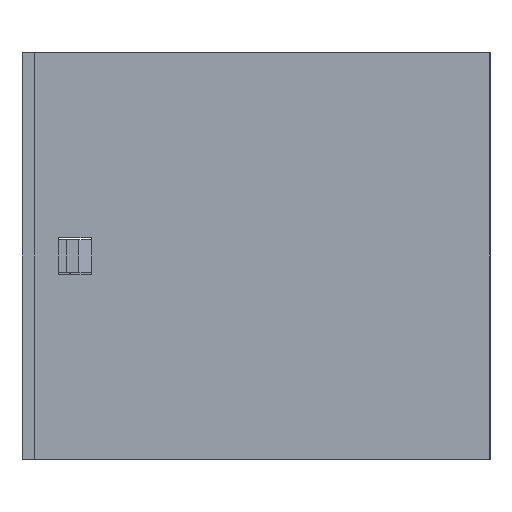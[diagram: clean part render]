
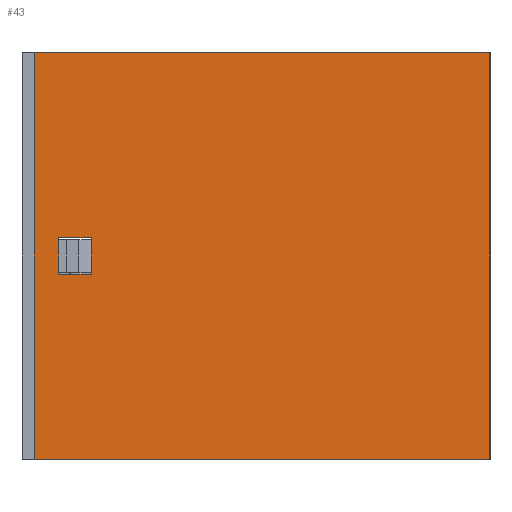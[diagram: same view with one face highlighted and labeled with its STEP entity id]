
A CAD part, left-side view. The second image highlights one B-rep face of the part: STEP entity #43.
In plain terms, the highlighted planar face has unit normal (-1, 0, 0).
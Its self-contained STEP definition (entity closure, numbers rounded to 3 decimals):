
#43 = ADVANCED_FACE('',(#44,#163),#58,.F.);
#44 = FACE_BOUND('',#45,.F.);
#45 = EDGE_LOOP('',(#46,#81,#109,#137));
#46 = ORIENTED_EDGE('',*,*,#47,.F.);
#47 = EDGE_CURVE('',#48,#50,#52,.T.);
#48 = VERTEX_POINT('',#49);
#49 = CARTESIAN_POINT('',(0.,0.,0.));
#50 = VERTEX_POINT('',#51);
#51 = CARTESIAN_POINT('',(0.,0.,100.));
#52 = SURFACE_CURVE('',#53,(#57,#69),.PCURVE_S1.);
#53 = LINE('',#54,#55);
#54 = CARTESIAN_POINT('',(0.,0.,0.));
#55 = VECTOR('',#56,1.);
#56 = DIRECTION('',(0.,0.,1.));
#57 = PCURVE('',#58,#63);
#58 = PLANE('',#59);
#59 = AXIS2_PLACEMENT_3D('',#60,#61,#62);
#60 = CARTESIAN_POINT('',(0.,0.,0.));
#61 = DIRECTION('',(1.,0.,0.));
#62 = DIRECTION('',(0.,0.,1.));
#63 = DEFINITIONAL_REPRESENTATION('',(#64),#68);
#64 = LINE('',#65,#66);
#65 = CARTESIAN_POINT('',(0.,0.));
#66 = VECTOR('',#67,1.);
#67 = DIRECTION('',(1.,0.));
#68 = ( GEOMETRIC_REPRESENTATION_CONTEXT(2) 
PARAMETRIC_REPRESENTATION_CONTEXT() REPRESENTATION_CONTEXT('2D SPACE',''
  ) );
#69 = PCURVE('',#70,#75);
#70 = PLANE('',#71);
#71 = AXIS2_PLACEMENT_3D('',#72,#73,#74);
#72 = CARTESIAN_POINT('',(0.,0.,0.));
#73 = DIRECTION('',(0.,1.,0.));
#74 = DIRECTION('',(0.,0.,1.));
#75 = DEFINITIONAL_REPRESENTATION('',(#76),#80);
#76 = LINE('',#77,#78);
#77 = CARTESIAN_POINT('',(0.,0.));
#78 = VECTOR('',#79,1.);
#79 = DIRECTION('',(1.,0.));
#80 = ( GEOMETRIC_REPRESENTATION_CONTEXT(2) 
PARAMETRIC_REPRESENTATION_CONTEXT() REPRESENTATION_CONTEXT('2D SPACE',''
  ) );
#81 = ORIENTED_EDGE('',*,*,#82,.T.);
#82 = EDGE_CURVE('',#48,#83,#85,.T.);
#83 = VERTEX_POINT('',#84);
#84 = CARTESIAN_POINT('',(0.,112.,0.));
#85 = SURFACE_CURVE('',#86,(#90,#97),.PCURVE_S1.);
#86 = LINE('',#87,#88);
#87 = CARTESIAN_POINT('',(0.,0.,0.));
#88 = VECTOR('',#89,1.);
#89 = DIRECTION('',(0.,1.,0.));
#90 = PCURVE('',#58,#91);
#91 = DEFINITIONAL_REPRESENTATION('',(#92),#96);
#92 = LINE('',#93,#94);
#93 = CARTESIAN_POINT('',(0.,0.));
#94 = VECTOR('',#95,1.);
#95 = DIRECTION('',(0.,-1.));
#96 = ( GEOMETRIC_REPRESENTATION_CONTEXT(2) 
PARAMETRIC_REPRESENTATION_CONTEXT() REPRESENTATION_CONTEXT('2D SPACE',''
  ) );
#97 = PCURVE('',#98,#103);
#98 = PLANE('',#99);
#99 = AXIS2_PLACEMENT_3D('',#100,#101,#102);
#100 = CARTESIAN_POINT('',(0.,0.,0.));
#101 = DIRECTION('',(0.,0.,1.));
#102 = DIRECTION('',(1.,0.,0.));
#103 = DEFINITIONAL_REPRESENTATION('',(#104),#108);
#104 = LINE('',#105,#106);
#105 = CARTESIAN_POINT('',(0.,0.));
#106 = VECTOR('',#107,1.);
#107 = DIRECTION('',(0.,1.));
#108 = ( GEOMETRIC_REPRESENTATION_CONTEXT(2) 
PARAMETRIC_REPRESENTATION_CONTEXT() REPRESENTATION_CONTEXT('2D SPACE',''
  ) );
#109 = ORIENTED_EDGE('',*,*,#110,.T.);
#110 = EDGE_CURVE('',#83,#111,#113,.T.);
#111 = VERTEX_POINT('',#112);
#112 = CARTESIAN_POINT('',(0.,112.,100.));
#113 = SURFACE_CURVE('',#114,(#118,#125),.PCURVE_S1.);
#114 = LINE('',#115,#116);
#115 = CARTESIAN_POINT('',(0.,112.,0.));
#116 = VECTOR('',#117,1.);
#117 = DIRECTION('',(0.,0.,1.));
#118 = PCURVE('',#58,#119);
#119 = DEFINITIONAL_REPRESENTATION('',(#120),#124);
#120 = LINE('',#121,#122);
#121 = CARTESIAN_POINT('',(0.,-112.));
#122 = VECTOR('',#123,1.);
#123 = DIRECTION('',(1.,0.));
#124 = ( GEOMETRIC_REPRESENTATION_CONTEXT(2) 
PARAMETRIC_REPRESENTATION_CONTEXT() REPRESENTATION_CONTEXT('2D SPACE',''
  ) );
#125 = PCURVE('',#126,#131);
#126 = PLANE('',#127);
#127 = AXIS2_PLACEMENT_3D('',#128,#129,#130);
#128 = CARTESIAN_POINT('',(0.,112.,0.));
#129 = DIRECTION('',(0.,1.,0.));
#130 = DIRECTION('',(0.,0.,1.));
#131 = DEFINITIONAL_REPRESENTATION('',(#132),#136);
#132 = LINE('',#133,#134);
#133 = CARTESIAN_POINT('',(0.,0.));
#134 = VECTOR('',#135,1.);
#135 = DIRECTION('',(1.,0.));
#136 = ( GEOMETRIC_REPRESENTATION_CONTEXT(2) 
PARAMETRIC_REPRESENTATION_CONTEXT() REPRESENTATION_CONTEXT('2D SPACE',''
  ) );
#137 = ORIENTED_EDGE('',*,*,#138,.F.);
#138 = EDGE_CURVE('',#50,#111,#139,.T.);
#139 = SURFACE_CURVE('',#140,(#144,#151),.PCURVE_S1.);
#140 = LINE('',#141,#142);
#141 = CARTESIAN_POINT('',(0.,0.,100.));
#142 = VECTOR('',#143,1.);
#143 = DIRECTION('',(0.,1.,0.));
#144 = PCURVE('',#58,#145);
#145 = DEFINITIONAL_REPRESENTATION('',(#146),#150);
#146 = LINE('',#147,#148);
#147 = CARTESIAN_POINT('',(100.,0.));
#148 = VECTOR('',#149,1.);
#149 = DIRECTION('',(0.,-1.));
#150 = ( GEOMETRIC_REPRESENTATION_CONTEXT(2) 
PARAMETRIC_REPRESENTATION_CONTEXT() REPRESENTATION_CONTEXT('2D SPACE',''
  ) );
#151 = PCURVE('',#152,#157);
#152 = PLANE('',#153);
#153 = AXIS2_PLACEMENT_3D('',#154,#155,#156);
#154 = CARTESIAN_POINT('',(0.,0.,100.));
#155 = DIRECTION('',(0.,0.,1.));
#156 = DIRECTION('',(1.,0.,0.));
#157 = DEFINITIONAL_REPRESENTATION('',(#158),#162);
#158 = LINE('',#159,#160);
#159 = CARTESIAN_POINT('',(0.,0.));
#160 = VECTOR('',#161,1.);
#161 = DIRECTION('',(0.,1.));
#162 = ( GEOMETRIC_REPRESENTATION_CONTEXT(2) 
PARAMETRIC_REPRESENTATION_CONTEXT() REPRESENTATION_CONTEXT('2D SPACE',''
  ) );
#163 = FACE_BOUND('',#164,.F.);
#164 = EDGE_LOOP('',(#165,#193,#219,#245));
#165 = ORIENTED_EDGE('',*,*,#166,.T.);
#166 = EDGE_CURVE('',#167,#169,#171,.T.);
#167 = VERTEX_POINT('',#168);
#168 = CARTESIAN_POINT('',(0.,106.,45.5));
#169 = VERTEX_POINT('',#170);
#170 = CARTESIAN_POINT('',(0.,98.,45.5));
#171 = SURFACE_CURVE('',#172,(#176,#182),.PCURVE_S1.);
#172 = LINE('',#173,#174);
#173 = CARTESIAN_POINT('',(0.,49.,45.5));
#174 = VECTOR('',#175,1.);
#175 = DIRECTION('',(0.,-1.,0.));
#176 = PCURVE('',#58,#177);
#177 = DEFINITIONAL_REPRESENTATION('',(#178),#181);
#178 = B_SPLINE_CURVE_WITH_KNOTS('',1,(#179,#180),.UNSPECIFIED.,.F.,.F.,
  (2,2),(-57.,-49.),.PIECEWISE_BEZIER_KNOTS.);
#179 = CARTESIAN_POINT('',(45.5,-106.));
#180 = CARTESIAN_POINT('',(45.5,-98.));
#181 = ( GEOMETRIC_REPRESENTATION_CONTEXT(2) 
PARAMETRIC_REPRESENTATION_CONTEXT() REPRESENTATION_CONTEXT('2D SPACE',''
  ) );
#182 = PCURVE('',#183,#188);
#183 = PLANE('',#184);
#184 = AXIS2_PLACEMENT_3D('',#185,#186,#187);
#185 = CARTESIAN_POINT('',(-0.1,98.,45.5));
#186 = DIRECTION('',(0.,0.,1.));
#187 = DIRECTION('',(1.,0.,0.));
#188 = DEFINITIONAL_REPRESENTATION('',(#189),#192);
#189 = B_SPLINE_CURVE_WITH_KNOTS('',1,(#190,#191),.UNSPECIFIED.,.F.,.F.,
  (2,2),(-57.,-49.),.PIECEWISE_BEZIER_KNOTS.);
#190 = CARTESIAN_POINT('',(0.1,8.));
#191 = CARTESIAN_POINT('',(0.1,0.));
#192 = ( GEOMETRIC_REPRESENTATION_CONTEXT(2) 
PARAMETRIC_REPRESENTATION_CONTEXT() REPRESENTATION_CONTEXT('2D SPACE',''
  ) );
#193 = ORIENTED_EDGE('',*,*,#194,.T.);
#194 = EDGE_CURVE('',#169,#195,#197,.T.);
#195 = VERTEX_POINT('',#196);
#196 = CARTESIAN_POINT('',(0.,98.,54.5));
#197 = SURFACE_CURVE('',#198,(#202,#208),.PCURVE_S1.);
#198 = LINE('',#199,#200);
#199 = CARTESIAN_POINT('',(0.,98.,22.75));
#200 = VECTOR('',#201,1.);
#201 = DIRECTION('',(0.,0.,1.));
#202 = PCURVE('',#58,#203);
#203 = DEFINITIONAL_REPRESENTATION('',(#204),#207);
#204 = B_SPLINE_CURVE_WITH_KNOTS('',1,(#205,#206),.UNSPECIFIED.,.F.,.F.,
  (2,2),(22.75,31.75),.PIECEWISE_BEZIER_KNOTS.);
#205 = CARTESIAN_POINT('',(45.5,-98.));
#206 = CARTESIAN_POINT('',(54.5,-98.));
#207 = ( GEOMETRIC_REPRESENTATION_CONTEXT(2) 
PARAMETRIC_REPRESENTATION_CONTEXT() REPRESENTATION_CONTEXT('2D SPACE',''
  ) );
#208 = PCURVE('',#209,#214);
#209 = PLANE('',#210);
#210 = AXIS2_PLACEMENT_3D('',#211,#212,#213);
#211 = CARTESIAN_POINT('',(-0.1,98.,45.5));
#212 = DIRECTION('',(0.,1.,0.));
#213 = DIRECTION('',(0.,0.,1.));
#214 = DEFINITIONAL_REPRESENTATION('',(#215),#218);
#215 = B_SPLINE_CURVE_WITH_KNOTS('',1,(#216,#217),.UNSPECIFIED.,.F.,.F.,
  (2,2),(22.75,31.75),.PIECEWISE_BEZIER_KNOTS.);
#216 = CARTESIAN_POINT('',(0.,0.1));
#217 = CARTESIAN_POINT('',(9.,0.1));
#218 = ( GEOMETRIC_REPRESENTATION_CONTEXT(2) 
PARAMETRIC_REPRESENTATION_CONTEXT() REPRESENTATION_CONTEXT('2D SPACE',''
  ) );
#219 = ORIENTED_EDGE('',*,*,#220,.F.);
#220 = EDGE_CURVE('',#221,#195,#223,.T.);
#221 = VERTEX_POINT('',#222);
#222 = CARTESIAN_POINT('',(0.,106.,54.5));
#223 = SURFACE_CURVE('',#224,(#228,#234),.PCURVE_S1.);
#224 = LINE('',#225,#226);
#225 = CARTESIAN_POINT('',(0.,49.,54.5));
#226 = VECTOR('',#227,1.);
#227 = DIRECTION('',(0.,-1.,0.));
#228 = PCURVE('',#58,#229);
#229 = DEFINITIONAL_REPRESENTATION('',(#230),#233);
#230 = B_SPLINE_CURVE_WITH_KNOTS('',1,(#231,#232),.UNSPECIFIED.,.F.,.F.,
  (2,2),(-57.,-49.),.PIECEWISE_BEZIER_KNOTS.);
#231 = CARTESIAN_POINT('',(54.5,-106.));
#232 = CARTESIAN_POINT('',(54.5,-98.));
#233 = ( GEOMETRIC_REPRESENTATION_CONTEXT(2) 
PARAMETRIC_REPRESENTATION_CONTEXT() REPRESENTATION_CONTEXT('2D SPACE',''
  ) );
#234 = PCURVE('',#235,#240);
#235 = PLANE('',#236);
#236 = AXIS2_PLACEMENT_3D('',#237,#238,#239);
#237 = CARTESIAN_POINT('',(-0.1,98.,54.5));
#238 = DIRECTION('',(0.,0.,1.));
#239 = DIRECTION('',(1.,0.,0.));
#240 = DEFINITIONAL_REPRESENTATION('',(#241),#244);
#241 = B_SPLINE_CURVE_WITH_KNOTS('',1,(#242,#243),.UNSPECIFIED.,.F.,.F.,
  (2,2),(-57.,-49.),.PIECEWISE_BEZIER_KNOTS.);
#242 = CARTESIAN_POINT('',(0.1,8.));
#243 = CARTESIAN_POINT('',(0.1,0.));
#244 = ( GEOMETRIC_REPRESENTATION_CONTEXT(2) 
PARAMETRIC_REPRESENTATION_CONTEXT() REPRESENTATION_CONTEXT('2D SPACE',''
  ) );
#245 = ORIENTED_EDGE('',*,*,#246,.F.);
#246 = EDGE_CURVE('',#167,#221,#247,.T.);
#247 = SURFACE_CURVE('',#248,(#252,#258),.PCURVE_S1.);
#248 = LINE('',#249,#250);
#249 = CARTESIAN_POINT('',(0.,106.,22.75));
#250 = VECTOR('',#251,1.);
#251 = DIRECTION('',(0.,0.,1.));
#252 = PCURVE('',#58,#253);
#253 = DEFINITIONAL_REPRESENTATION('',(#254),#257);
#254 = B_SPLINE_CURVE_WITH_KNOTS('',1,(#255,#256),.UNSPECIFIED.,.F.,.F.,
  (2,2),(22.75,31.75),.PIECEWISE_BEZIER_KNOTS.);
#255 = CARTESIAN_POINT('',(45.5,-106.));
#256 = CARTESIAN_POINT('',(54.5,-106.));
#257 = ( GEOMETRIC_REPRESENTATION_CONTEXT(2) 
PARAMETRIC_REPRESENTATION_CONTEXT() REPRESENTATION_CONTEXT('2D SPACE',''
  ) );
#258 = PCURVE('',#259,#264);
#259 = PLANE('',#260);
#260 = AXIS2_PLACEMENT_3D('',#261,#262,#263);
#261 = CARTESIAN_POINT('',(-0.1,106.,45.5));
#262 = DIRECTION('',(0.,1.,0.));
#263 = DIRECTION('',(0.,0.,1.));
#264 = DEFINITIONAL_REPRESENTATION('',(#265),#268);
#265 = B_SPLINE_CURVE_WITH_KNOTS('',1,(#266,#267),.UNSPECIFIED.,.F.,.F.,
  (2,2),(22.75,31.75),.PIECEWISE_BEZIER_KNOTS.);
#266 = CARTESIAN_POINT('',(0.,0.1));
#267 = CARTESIAN_POINT('',(9.,0.1));
#268 = ( GEOMETRIC_REPRESENTATION_CONTEXT(2) 
PARAMETRIC_REPRESENTATION_CONTEXT() REPRESENTATION_CONTEXT('2D SPACE',''
  ) );
